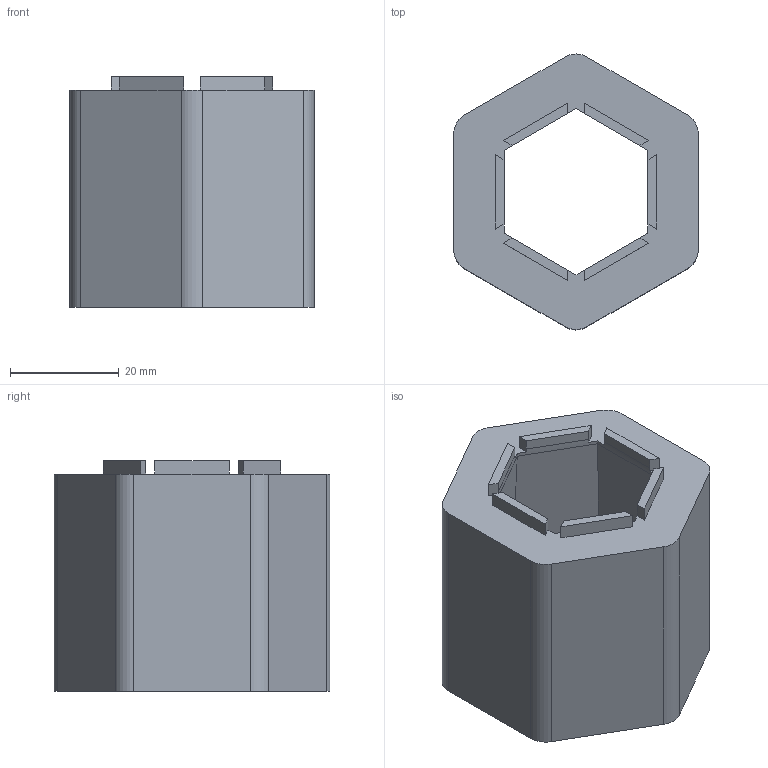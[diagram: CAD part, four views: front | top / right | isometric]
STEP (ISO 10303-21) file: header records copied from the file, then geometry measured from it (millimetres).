
FILE_DESCRIPTION(/* description */ ('','CAx-IF Rec.Pracs.---Representation and Presentation of Product Manufacturing Information (PMI)---4.0---2014-10-13'),/* implementation_level */ '2;1');
FILE_NAME(/* name */ 'Turm-40.step',/* time_stamp */ '2025-01-06T17:46:51+01:00',/* author */ (''),/* organization */ (''),/* preprocessor_version */ 'ST-DEVELOPER v20',/* originating_system */ 'Autodesk Translation Framework v13.20.0.188',/* authorisation */ '');
FILE_SCHEMA (('AP242_MANAGED_MODEL_BASED_3D_ENGINEERING_MIM_LF { 1 0 10303 442 1 1 4 }'));
Length unit declared in the file: millimetre
Products named in the file (1): 01_Turm-40
Bounding box: 45 x 50.72 x 42.5 mm (x, y, z)
Volume: 42662.3 mm3; surface area: 12609.9 mm2
Topology: 1 solids, 1 shells, 62 faces, 174 edges, 114 vertices
Faces by surface type: plane 50, bspline 6, cylinder 6
Entity records: 2324 total; most frequent: CARTESIAN_POINT 783, ORIENTED_EDGE 348, DIRECTION 252, EDGE_CURVE 174, LINE 114, VECTOR 114, VERTEX_POINT 114, AXIS2_PLACEMENT_3D 69
